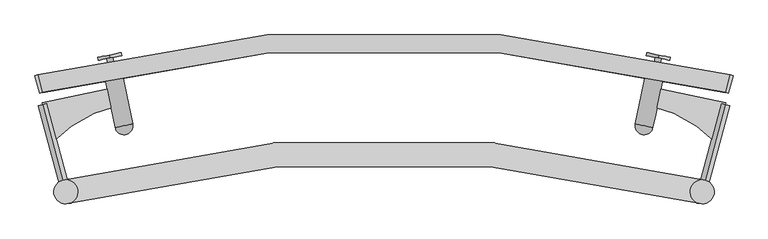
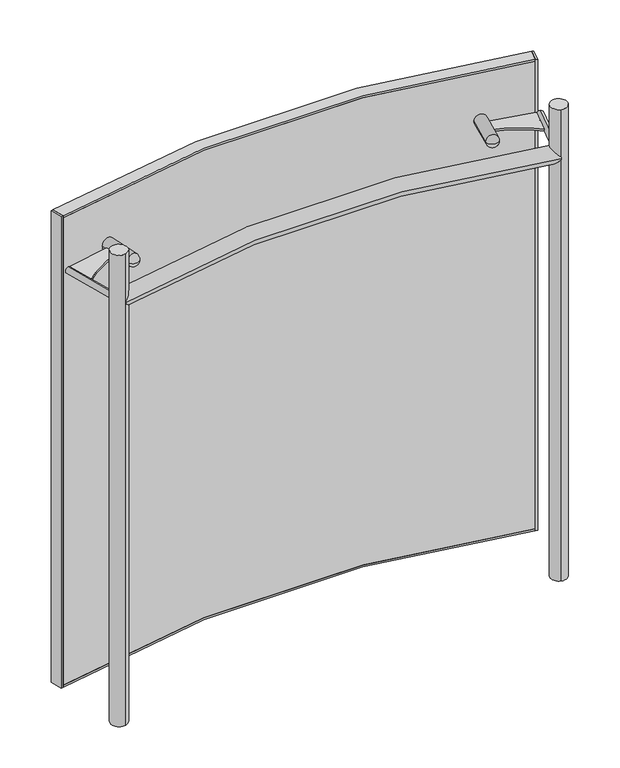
"""IFC4 building model written with IfcOpenShell, lengths in millimetres: plate geometry, CONVEX_SPIDER : CONVEX_SPIDER."""

from ifc_helpers import new_model, si_unit, point, frame, frame_2d, origin, origin_with_axes, place, context, project, spatial, polyline, circle_curve, ellipse_curve, trimmed, segment, composite_curve, outline, extrude, source, transform, mapped, element, save
from ifc_brep_helpers import plane_surface, cylinder_surface, revolved_surface, advanced_brep


def plate_5dff8962(model_context):
    return source(origin(), model_context, "Body", "SolidModel", [
        extrude(outline(composite_curve([segment(polyline([(-446.1450182, -19.3288722), (-440.0612225, -48.7055199)]), True, "CONTINUOUS"), segment(trimmed(circle_curve(frame_2d((-389.613546, -271.5613305)), 228.4943772), [point((-440.0612225, -48.7055199))], [point((-554.3521937, -113.2235322))], True, "CARTESIAN"), True, "CONTINUOUS"), segment(polyline([(-554.3521937, -113.2235322), (-568.547717, -44.678021), (-446.1450182, -19.3288722)]), True, "CONTINUOUS")], self_intersect=False)), frame((0.0, 0.0, 1072.5), z_axis=(0.0, 0.0, 1.0), x_axis=(1.0, 0.0, 0.0)), (0.0, 0.0, 1.0), 5.0),
        advanced_brep(
        [(-456.2846777, 29.6322073, 1075.0), (-461.1807857, 28.6182413, 1075.0), (-451.3885698, 30.6461733, 1075.0), (-435.5125582, 3.2974575, 1075.0), (-464.8892059, -2.7863382, 1075.0), (-447.6517847, -86.0201734, 1075.0), (-418.275137, -79.9363777, 1075.0), (-445.3047741, 1.2695256, 1075.0), (-455.09699, -0.7584063, 1075.0), (-429.921563, -97.6665994, 1075.0)],
        [
            (0, 1),
            (1, 2, circle_curve(frame((-456.2846777, 29.6322073, 1075.0), z_axis=(-0.20279319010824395, 0.9792215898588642, 0.0), x_axis=(-0.9792215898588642, -0.20279319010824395, 0.0)), 5.0)),
            (2, 0),
            (2, 1, circle_curve(frame((-456.2846777, 29.6322073, 1075.0), z_axis=(-0.20279319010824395, 0.9792215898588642, 0.0), x_axis=(-0.9792215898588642, -0.20279319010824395, 0.0)), 5.0)),
            (3, 4, circle_curve(frame((-450.200882, 0.2555596, 1075.0), z_axis=(0.20279319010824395, -0.9792215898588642, 0.0), x_axis=(-0.9792215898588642, -0.20279319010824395, 0.0)), 15.0)),
            (4, 5),
            (5, 6, circle_curve(frame((-432.9634609, -82.9782755, 1075.0), z_axis=(-0.20279319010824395, 0.9792215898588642, 0.0), x_axis=(-0.9792215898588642, -0.20279319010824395, 0.0)), 15.0)),
            (6, 3),
            (4, 3, circle_curve(frame((-450.200882, 0.2555596, 1075.0), z_axis=(0.20279319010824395, -0.9792215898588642, 0.0), x_axis=(-0.9792215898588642, -0.20279319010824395, 0.0)), 15.0)),
            (6, 5, circle_curve(frame((-432.9634609, -82.9782755, 1075.0), z_axis=(-0.20279319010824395, 0.9792215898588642, 0.0), x_axis=(-0.9792215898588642, -0.20279319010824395, 0.0)), 15.0)),
            (7, 8, circle_curve(frame((-450.200882, 0.2555596, 1075.0), z_axis=(0.20279319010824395, -0.9792215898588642, 0.0), x_axis=(-0.9792215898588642, -0.20279319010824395, 0.0)), 5.0)),
            (8, 4),
            (3, 7),
            (8, 7, circle_curve(frame((-450.200882, 0.2555596, 1075.0), z_axis=(0.20279319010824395, -0.9792215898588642, 0.0), x_axis=(-0.9792215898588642, -0.20279319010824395, 0.0)), 5.0)),
            (1, 8),
            (7, 2),
            (5, 9, circle_curve(frame((-432.9634609, -82.9782755, 1075.0), z_axis=(0.0, 0.0, 1.0), x_axis=(-0.9792215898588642, -0.20279319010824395, 0.0)), 15.0)),
            (9, 6, circle_curve(frame((-432.9634609, -82.9782755, 1075.0), z_axis=(0.0, 0.0, 1.0), x_axis=(0.9792215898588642, 0.20279319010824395, 0.0)), 15.0)),
        ],
        [
            plane_surface(frame((-456.2846777, 29.6322073, 1075.0), z_axis=(-0.20279319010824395, 0.9792215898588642, 0.0), x_axis=(-0.9792215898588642, -0.20279319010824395, 0.0))),
            cylinder_surface(frame((-507.9969412, 279.3337127, 1075.0), z_axis=(-0.20279319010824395, 0.9792215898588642, 0.0), x_axis=(-0.9792215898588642, -0.20279319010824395, 0.0)), 15.0),
            plane_surface(frame((-450.200882, 0.2555596, 1075.0), z_axis=(-0.20279319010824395, 0.9792215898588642, 0.0), x_axis=(-0.9792215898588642, -0.20279319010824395, 0.0))),
            cylinder_surface(frame((-507.9969412, 279.3337127, 1075.0), z_axis=(-0.20279319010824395, 0.9792215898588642, 0.0), x_axis=(-0.9792215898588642, -0.20279319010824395, 0.0)), 5.0),
            revolved_surface(trimmed(ellipse_curve(frame((-432.9634609, -82.9782755, 1075.0), z_axis=(0.0, 0.0, -1.0), x_axis=(-0.9792215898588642, -0.20279319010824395, 0.0)), 15.0, 15.0), [point((-429.921563, -97.6665994, 1075.0))], [point((-447.6517847, -86.0201734, 1075.0))], True, "CARTESIAN"), (-507.9969412, 279.3337127, 1075.0), (-0.20279319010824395, 0.9792215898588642, 0.0)),
        ],
        [
            (0, [[1, 2, 3]]),
            (0, [[-3, 4, -1]]),
            (1, [[5, 6, 7, 8]]),
            (1, [[9, -8, 10, -6]]),
            (2, [[11, 12, -5, 13]]),
            (2, [[14, -13, -9, -12]]),
            (3, [[-2, 15, -11, 16]]),
            (3, [[-4, -16, -14, -15]]),
            (4, [[-7, 17, 18]]),
            (4, [[-10, -18, -17]]),
        ],
    ),
        extrude(outline(composite_curve([segment(polyline([(446.1450182, -19.3288722), (568.547717, -44.678021), (554.3521937, -113.2235322)]), True, "CONTINUOUS"), segment(trimmed(circle_curve(frame_2d((389.613546, -271.5613305)), 228.4943772), [point((554.3521937, -113.2235322))], [point((440.0612225, -48.7055199))], True, "CARTESIAN"), True, "CONTINUOUS"), segment(polyline([(440.0612225, -48.7055199), (446.1450182, -19.3288722)]), True, "CONTINUOUS")], self_intersect=False)), frame((0.0, 0.0, 1072.5), z_axis=(0.0, 0.0, 1.0), x_axis=(1.0, 0.0, 0.0)), (0.0, 0.0, 1.0), 5.0),
        advanced_brep(
        [(456.2846777, 29.6322073, 1075.0), (461.1807857, 28.6182413, 1075.0), (451.3885698, 30.6461733, 1075.0), (435.5125582, 3.2974575, 1075.0), (464.8892059, -2.7863382, 1075.0), (447.6517847, -86.0201734, 1075.0), (418.275137, -79.9363777, 1075.0), (445.3047741, 1.2695256, 1075.0), (455.09699, -0.7584063, 1075.0), (429.921563, -97.6665994, 1075.0)],
        [
            (0, 1),
            (1, 2, circle_curve(frame((456.2846777, 29.6322073, 1075.0), z_axis=(0.20279319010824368, 0.9792215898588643, 0.0), x_axis=(0.9792215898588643, -0.20279319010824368, 0.0)), 5.0)),
            (2, 0),
            (2, 1, circle_curve(frame((456.2846777, 29.6322073, 1075.0), z_axis=(0.20279319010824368, 0.9792215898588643, 0.0), x_axis=(0.9792215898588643, -0.20279319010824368, 0.0)), 5.0)),
            (3, 4, circle_curve(frame((450.200882, 0.2555596, 1075.0), z_axis=(-0.20279319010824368, -0.9792215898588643, 0.0), x_axis=(0.9792215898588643, -0.20279319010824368, 0.0)), 15.0)),
            (4, 5),
            (5, 6, circle_curve(frame((432.9634609, -82.9782755, 1075.0), z_axis=(0.20279319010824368, 0.9792215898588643, 0.0), x_axis=(0.9792215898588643, -0.20279319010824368, 0.0)), 15.0)),
            (6, 3),
            (4, 3, circle_curve(frame((450.200882, 0.2555596, 1075.0), z_axis=(-0.20279319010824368, -0.9792215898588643, 0.0), x_axis=(0.9792215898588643, -0.20279319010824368, 0.0)), 15.0)),
            (6, 5, circle_curve(frame((432.9634609, -82.9782755, 1075.0), z_axis=(0.20279319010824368, 0.9792215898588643, 0.0), x_axis=(0.9792215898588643, -0.20279319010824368, 0.0)), 15.0)),
            (7, 8, circle_curve(frame((450.200882, 0.2555596, 1075.0), z_axis=(-0.20279319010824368, -0.9792215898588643, 0.0), x_axis=(0.9792215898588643, -0.20279319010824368, 0.0)), 5.0)),
            (8, 4),
            (3, 7),
            (8, 7, circle_curve(frame((450.200882, 0.2555596, 1075.0), z_axis=(-0.20279319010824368, -0.9792215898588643, 0.0), x_axis=(0.9792215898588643, -0.20279319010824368, 0.0)), 5.0)),
            (1, 8),
            (7, 2),
            (5, 9, circle_curve(frame((432.9634609, -82.9782755, 1075.0), z_axis=(0.0, 0.0, -1.0000000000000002), x_axis=(0.9792215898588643, -0.20279319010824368, 0.0)), 15.0)),
            (9, 6, circle_curve(frame((432.9634609, -82.9782755, 1075.0), z_axis=(0.0, 0.0, -1.0000000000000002), x_axis=(-0.9792215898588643, 0.20279319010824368, 0.0)), 15.0)),
        ],
        [
            plane_surface(frame((456.2846777, 29.6322073, 1075.0), z_axis=(0.20279319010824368, 0.9792215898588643, 0.0), x_axis=(0.9792215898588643, -0.20279319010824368, 0.0))),
            cylinder_surface(frame((507.9969412, 279.3337127, 1075.0), z_axis=(0.20279319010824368, 0.9792215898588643, 0.0), x_axis=(0.9792215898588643, -0.20279319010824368, 0.0)), 15.0),
            plane_surface(frame((450.200882, 0.2555596, 1075.0), z_axis=(0.20279319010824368, 0.9792215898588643, 0.0), x_axis=(0.9792215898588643, -0.20279319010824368, 0.0))),
            cylinder_surface(frame((507.9969412, 279.3337127, 1075.0), z_axis=(0.20279319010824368, 0.9792215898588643, 0.0), x_axis=(0.9792215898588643, -0.20279319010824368, 0.0)), 5.0),
            revolved_surface(trimmed(ellipse_curve(frame((432.9634609, -82.9782755, 1075.0), z_axis=(0.0, 0.0, 1.0000000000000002), x_axis=(0.9792215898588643, -0.20279319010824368, 0.0)), 15.0, 15.0), [point((429.921563, -97.6665994, 1075.0))], [point((447.6517847, -86.0201734, 1075.0))], True, "CARTESIAN"), (507.9969412, 279.3337127, 1075.0), (0.20279319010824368, 0.9792215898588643, 0.0)),
        ],
        [
            (0, [[1, 2, 3]]),
            (0, [[-3, 4, -1]]),
            (1, [[5, 6, 7, 8]]),
            (1, [[9, -8, 10, -6]]),
            (2, [[11, 12, -5, 13]]),
            (2, [[14, -13, -9, -12]]),
            (3, [[-2, 15, -11, 16]]),
            (3, [[-4, -16, -14, -15]]),
            (4, [[-7, 17, 18]]),
            (4, [[-10, -18, -17]]),
        ],
    ),
        extrude(outline(composite_curve([segment(trimmed(circle_curve(frame_2d((0.0, -20.0)), 20.0), [point((0.0, -40.0))], [point((0.0, 0.0))], False, "CARTESIAN"), True, "CONTINUOUS"), segment(trimmed(circle_curve(frame_2d((0.0, -20.0)), 20.0), [point((0.0, 0.0))], [point((0.0, -40.0))], False, "CARTESIAN"), True, "CONTINUOUS")], self_intersect=False)), frame((-456.2846777, 29.6322073, 1095.0), z_axis=(-0.20279319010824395, 0.9792215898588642, 0.0), x_axis=(-0.9792215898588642, -0.20279319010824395, 0.0)), (0.0, 0.0, 1.0), 5.0),
        extrude(outline(composite_curve([segment(trimmed(circle_curve(frame_2d((0.0, -20.0)), 20.0), [point((0.0, -40.0))], [point((0.0, 0.0))], False, "CARTESIAN"), True, "CONTINUOUS"), segment(trimmed(circle_curve(frame_2d((0.0, -20.0)), 20.0), [point((0.0, 0.0))], [point((0.0, -40.0))], False, "CARTESIAN"), True, "CONTINUOUS")], self_intersect=False)), frame((456.2846777, 29.6322073, 1095.0), z_axis=(0.20279319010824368, 0.9792215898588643, 0.0), x_axis=(-0.9792215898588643, 0.20279319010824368, 0.0)), (0.0, 0.0, 1.0), 5.0),
        extrude(outline(composite_curve([segment(trimmed(circle_curve(frame_2d((0.0, -7.5)), 7.5), [point((0.0, -15.0))], [point((0.0, 0.0))], False, "CARTESIAN"), True, "CONTINUOUS"), segment(trimmed(circle_curve(frame_2d((0.0, -7.5)), 7.5), [point((0.0, 0.0))], [point((0.0, -15.0))], False, "CARTESIAN"), True, "CONTINUOUS")], self_intersect=False)), frame((529.5751806, -193.1997143, 1082.5), z_axis=(0.25834874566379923, 0.9660517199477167, 0.0), x_axis=(-0.9660517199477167, 0.25834874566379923, 0.0)), (0.0, 0.0, 1.0), 150.0),
        extrude(outline(composite_curve([segment(trimmed(circle_curve(frame_2d((0.0, -7.5)), 7.5), [point((0.0, -15.0))], [point((0.0, 0.0))], False, "CARTESIAN"), True, "CONTINUOUS"), segment(trimmed(circle_curve(frame_2d((0.0, -7.5)), 7.5), [point((0.0, 0.0))], [point((0.0, -15.0))], False, "CARTESIAN"), True, "CONTINUOUS")], self_intersect=False)), frame((-529.6149286, -193.210344, 1082.5), z_axis=(-0.25834874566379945, 0.9660517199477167, 0.0), x_axis=(-0.9660517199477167, -0.25834874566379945, 0.0)), (0.0, 0.0, 1.0), 150.0),
        advanced_brep(
        [(524.4479537, -212.5313784, 1075.0), (534.7819035, -173.8893096, 1075.0), (-524.4479537, -212.5313784, 1075.0), (-534.7819035, -173.8893096, 1075.0)],
        [
            (0, 1, circle_curve(frame((529.6149286, -193.210344, 1075.0), z_axis=(0.9660517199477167, -0.25834874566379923, 0.0), x_axis=(0.25834874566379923, 0.9660517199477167, 0.0)), 20.0)),
            (1, 0, circle_curve(frame((529.6149286, -193.210344, 1075.0), z_axis=(0.9660517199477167, -0.25834874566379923, 0.0), x_axis=(0.25834874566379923, 0.9660517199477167, 0.0)), 20.0)),
            (2, 3, circle_curve(frame((-529.6149286, -193.210344, 1075.0), z_axis=(-0.9660517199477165, -0.2583487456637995, 0.0), x_axis=(-0.2583487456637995, 0.9660517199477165, 0.0)), 20.0)),
            (3, 2, circle_curve(frame((-529.6149286, -193.210344, 1075.0), z_axis=(-0.9660517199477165, -0.2583487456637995, 0.0), x_axis=(-0.2583487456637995, 0.9660517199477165, 0.0)), 20.0)),
            (3, 1, circle_curve(frame((0.0, -2173.6163699, 1075.0), z_axis=(0.0, 0.0, -1.0), x_axis=(0.25834874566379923, 0.9660517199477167, 0.0)), 2070.0)),
            (0, 2, circle_curve(frame((0.0, -2173.6163699, 1075.0), z_axis=(0.0, 0.0, 1.0), x_axis=(0.25834874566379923, 0.9660517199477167, 0.0)), 2030.0)),
        ],
        [
            plane_surface(frame((0.0, -2173.6163699, 1422.466352), z_axis=(0.9660517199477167, -0.25834874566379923, 0.0), x_axis=(0.25834874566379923, 0.9660517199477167, 0.0))),
            plane_surface(frame((0.0, -2173.6163699, 1422.466352), z_axis=(-0.9660517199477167, -0.2583487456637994, 0.0), x_axis=(-0.2583487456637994, 0.9660517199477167, 0.0))),
            revolved_surface(trimmed(ellipse_curve(frame((529.6149286, -193.210344, 1075.0), z_axis=(0.9660517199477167, -0.25834874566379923, 0.0), x_axis=(0.25834874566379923, 0.9660517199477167, 0.0)), 20.0, 20.0), [point((524.4479537, -212.5313784, 1075.0))], [point((534.7819035, -173.8893096, 1075.0))], True, "CARTESIAN"), (0.0, -2173.6163699, 1422.466352), (0.0, 0.0, 1.0)),
            revolved_surface(trimmed(ellipse_curve(frame((529.6149286, -193.210344, 1075.0), z_axis=(0.9660517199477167, -0.25834874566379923, 0.0), x_axis=(0.25834874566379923, 0.9660517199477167, 0.0)), 20.0, 20.0), [point((534.7819035, -173.8893096, 1075.0))], [point((524.4479537, -212.5313784, 1075.0))], True, "CARTESIAN"), (0.0, -2173.6163699, 1422.466352), (0.0, 0.0, 1.0)),
        ],
        [
            (0, [[1, 2]]),
            (1, [[3, 4]]),
            (2, [[5, -1, 6, -4]]),
            (3, [[-6, -2, -5, -3]]),
        ],
    ),
        extrude(outline(polyline([(581.1178941, 0.0503463), (573.4340984, -28.9489517), (568.600882, -27.668319), (576.2846777, 1.330979), (581.1178941, 0.0503463)])), origin_with_axes(), (0.0, 0.0, 1.0), 1200.0),
        extrude(outline(polyline([(-573.4340984, -28.9489517), (-581.1178941, 0.0503463), (-576.2846777, 1.330979), (-568.600882, -27.668319), (-573.4340984, -28.9489517)])), origin_with_axes(), (0.0, 0.0, 1.0), 1200.0),
        extrude(outline(composite_curve([segment(polyline([(576.2846777, 1.330979), (568.600882, -27.668319)]), True, "CONTINUOUS"), segment(trimmed(circle_curve(frame_2d((0.0, -2173.6163699)), 2220.0), [point((568.600882, -27.668319))], [point((-568.600882, -27.668319))], True, "CARTESIAN"), True, "CONTINUOUS"), segment(polyline([(-568.600882, -27.668319), (-576.2846777, 1.330979)]), True, "CONTINUOUS"), segment(trimmed(circle_curve(frame_2d((0.0, -2173.6163699)), 2250.0), [point((-576.2846777, 1.330979))], [point((576.2846777, 1.330979))], False, "CARTESIAN"), True, "CONTINUOUS")], self_intersect=False)), origin_with_axes(), (0.0, 0.0, 1.0), 5.0),
        extrude(outline(composite_curve([segment(trimmed(circle_curve(frame_2d((0.0, -2173.6163699)), 2220.0), [point((568.600882, -27.668319))], [point((-568.600882, -27.668319))], True, "CARTESIAN"), True, "CONTINUOUS"), segment(polyline([(-568.600882, -27.668319), (-576.2846777, 1.330979)]), True, "CONTINUOUS"), segment(trimmed(circle_curve(frame_2d((0.0, -2173.6163699)), 2250.0), [point((-576.2846777, 1.330979))], [point((576.2846777, 1.330979))], False, "CARTESIAN"), True, "CONTINUOUS"), segment(polyline([(576.2846777, 1.330979), (568.600882, -27.668319)]), True, "CONTINUOUS")], self_intersect=False)), frame((0.0, 0.0, 1195.0), z_axis=(0.0, 0.0, 1.0), x_axis=(1.0, 0.0, 0.0)), (0.0, 0.0, 1.0), 5.0),
        extrude(outline(composite_curve([segment(trimmed(circle_curve(frame_2d((529.6149286, -193.210344)), 20.0), [point((524.4479537, -212.5313784))], [point((534.7819035, -173.8893096))], False, "CARTESIAN"), True, "CONTINUOUS"), segment(trimmed(circle_curve(frame_2d((529.6149286, -193.210344)), 20.0), [point((534.7819035, -173.8893096))], [point((524.4479537, -212.5313784))], False, "CARTESIAN"), True, "CONTINUOUS")], self_intersect=False)), origin_with_axes(), (0.0, 0.0, 1.0), 1200.0),
        extrude(outline(composite_curve([segment(trimmed(circle_curve(frame_2d((-529.6149286, -193.210344)), 20.0), [point((-524.4479537, -212.5313784))], [point((-534.7819035, -173.8893096))], False, "CARTESIAN"), True, "CONTINUOUS"), segment(trimmed(circle_curve(frame_2d((-529.6149286, -193.210344)), 20.0), [point((-534.7819035, -173.8893096))], [point((-524.4479537, -212.5313784))], False, "CARTESIAN"), True, "CONTINUOUS")], self_intersect=False)), origin_with_axes(), (0.0, 0.0, 1.0), 1200.0),
        extrude(outline(composite_curve([segment(trimmed(circle_curve(frame_2d((0.0, -2173.6163699)), 2250.0), [point((-576.2846777, 1.330979))], [point((576.2846777, 1.330979))], False, "CARTESIAN"), True, "CONTINUOUS"), segment(polyline([(576.2846777, 1.330979), (568.600882, -27.668319)]), True, "CONTINUOUS"), segment(trimmed(circle_curve(frame_2d((0.0, -2173.6163699)), 2220.0), [point((568.600882, -27.668319))], [point((-568.600882, -27.668319))], True, "CARTESIAN"), True, "CONTINUOUS"), segment(polyline([(-568.600882, -27.668319), (-576.2846777, 1.330979)]), True, "CONTINUOUS")], self_intersect=False)), frame((0.0, 0.0, 5.0), z_axis=(0.0, 0.0, 1.0), x_axis=(1.0, 0.0, 0.0)), (0.0, 0.0, 1.0), 1190.0),
    ])


if __name__ == "__main__":
    model = new_model("IFC4")
    model_context = context("Model", 3, world=origin())
    ifc_project = project(units=[si_unit("LENGTHUNIT", "METRE", prefix="MILLI")], contexts=[model_context])
    site = spatial("IfcSite", under=ifc_project)
    building = spatial("IfcBuilding", under=site)
    placement = place(None, origin())
    plate_shape = plate_5dff8962(model_context)
    element("IfcPlate", 1, ObjectType="CONVEX_SPIDER : CONVEX_SPIDER", at=placement, inside=building, context=model_context, shape_type="MappedRepresentation", body=[
        mapped(plate_shape, transform((0.0, 0.0, 0.0), x_axis=(1.0, 0.0, 0.0), y_axis=(0.0, 1.0, 0.0), z_axis=(0.0, 0.0, 1.0))),
    ])
    save(model, "model.ifc")
